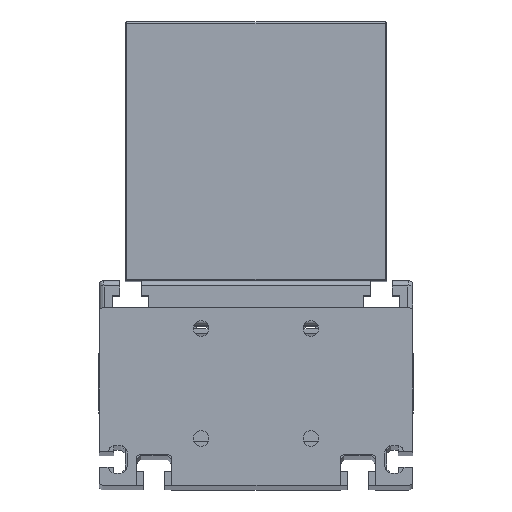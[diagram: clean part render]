
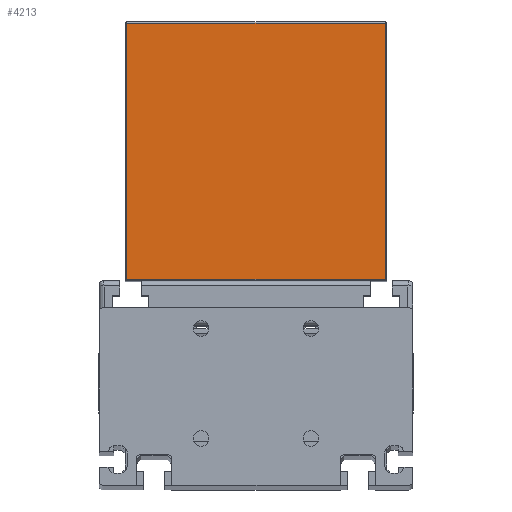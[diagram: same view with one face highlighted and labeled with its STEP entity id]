
A CAD part, top view. The second image highlights one B-rep face of the part: STEP entity #4213.
In plain terms, the highlighted planar face has unit normal (0, 0, 1).
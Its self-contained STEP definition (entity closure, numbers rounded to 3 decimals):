
#237 = VERTEX_POINT ( 'NONE', #3745 ) ;
#716 = VECTOR ( 'NONE', #6694, 1000. ) ;
#1067 = EDGE_CURVE ( 'NONE', #6670, #237, #11556, .T. ) ;
#1440 = DIRECTION ( 'NONE',  ( 0., 1., 0. ) ) ;
#1599 = ORIENTED_EDGE ( 'NONE', *, *, #8569, .T. ) ;
#2070 = FACE_OUTER_BOUND ( 'NONE', #10553, .T. ) ;
#2225 = ORIENTED_EDGE ( 'NONE', *, *, #5861, .T. ) ;
#2265 = CARTESIAN_POINT ( 'NONE',  ( 50., 98.5, 90. ) ) ;
#3279 = VERTEX_POINT ( 'NONE', #11609 ) ;
#3745 = CARTESIAN_POINT ( 'NONE',  ( -49.5, 98.5, 90. ) ) ;
#4213 = ADVANCED_FACE ( 'NONE', ( #2070 ), #5956, .F. ) ;
#5034 = DIRECTION ( 'NONE',  ( 0., 0., -1. ) ) ;
#5480 = AXIS2_PLACEMENT_3D ( 'NONE', #9581, #5034, #9650 ) ;
#5614 = CARTESIAN_POINT ( 'NONE',  ( -49.5, 0.5, 90. ) ) ;
#5617 = VECTOR ( 'NONE', #1440, 1000. ) ;
#5861 = EDGE_CURVE ( 'NONE', #3279, #6670, #6248, .T. ) ;
#5956 = PLANE ( 'NONE',  #5480 ) ;
#6118 = VECTOR ( 'NONE', #6772, 1000. ) ;
#6248 = LINE ( 'NONE', #10054, #5617 ) ;
#6670 = VERTEX_POINT ( 'NONE', #6970 ) ;
#6694 = DIRECTION ( 'NONE',  ( 1., 0., 0. ) ) ;
#6772 = DIRECTION ( 'NONE',  ( -1., 0., 0. ) ) ;
#6849 = EDGE_CURVE ( 'NONE', #8045, #3279, #11343, .T. ) ;
#6970 = CARTESIAN_POINT ( 'NONE',  ( 49.5, 98.5, 90. ) ) ;
#7300 = VECTOR ( 'NONE', #10975, 1000. ) ;
#7345 = CARTESIAN_POINT ( 'NONE',  ( -49.5, 0., 90. ) ) ;
#8045 = VERTEX_POINT ( 'NONE', #5614 ) ;
#8569 = EDGE_CURVE ( 'NONE', #237, #8045, #11888, .T. ) ;
#9128 = ORIENTED_EDGE ( 'NONE', *, *, #6849, .T. ) ;
#9581 = CARTESIAN_POINT ( 'NONE',  ( 50., 0., 90. ) ) ;
#9650 = DIRECTION ( 'NONE',  ( 0., 1., 0. ) ) ;
#10054 = CARTESIAN_POINT ( 'NONE',  ( 49.5, 99., 90. ) ) ;
#10247 = CARTESIAN_POINT ( 'NONE',  ( 50., 0.5, 90. ) ) ;
#10447 = ORIENTED_EDGE ( 'NONE', *, *, #1067, .T. ) ;
#10553 = EDGE_LOOP ( 'NONE', ( #2225, #10447, #1599, #9128 ) ) ;
#10975 = DIRECTION ( 'NONE',  ( 0., -1., 0. ) ) ;
#11343 = LINE ( 'NONE', #10247, #716 ) ;
#11556 = LINE ( 'NONE', #2265, #6118 ) ;
#11609 = CARTESIAN_POINT ( 'NONE',  ( 49.5, 0.5, 90. ) ) ;
#11888 = LINE ( 'NONE', #7345, #7300 ) ;
